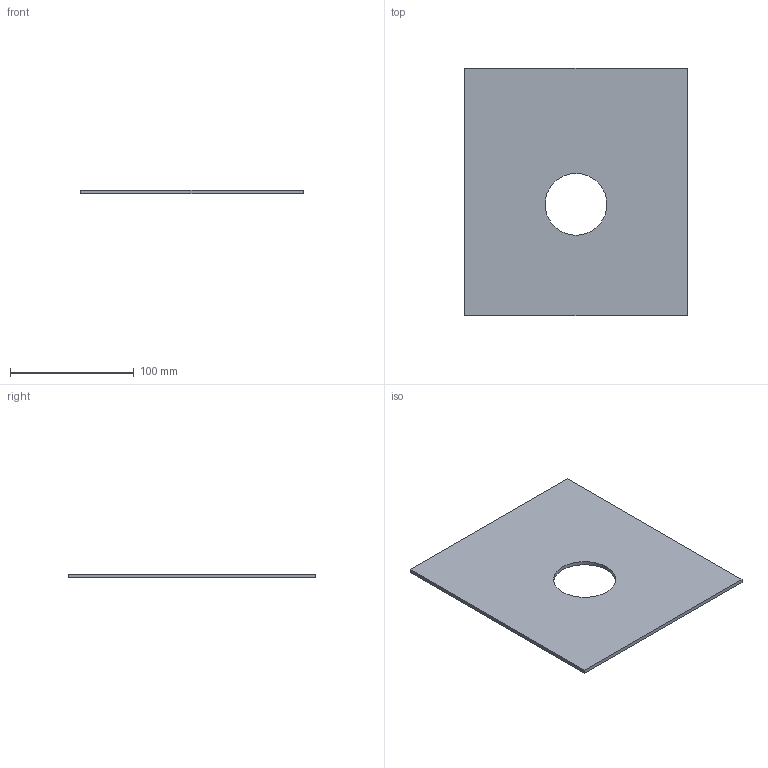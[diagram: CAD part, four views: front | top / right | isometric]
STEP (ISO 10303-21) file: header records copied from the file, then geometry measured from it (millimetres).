
FILE_DESCRIPTION(('Open CASCADE Model'),'2;1');
FILE_NAME('Open CASCADE Shape Model','2026-10-16T18:52:00',('Author'),( 'Open CASCADE'),'Open CASCADE STEP processor 7.8','Open CASCADE 7.8' ,'Unknown');
FILE_SCHEMA(('AUTOMOTIVE_DESIGN { 1 0 10303 214 1 1 1 1 }'));
Length unit declared in the file: millimetre
Products named in the file (1): Open CASCADE STEP translator 7.8 19
Bounding box: 180 x 200 x 3 mm (x, y, z)
Volume: 102109.5 mm3; surface area: 70824.2 mm2
Topology: 1 solids, 1 shells, 7 faces, 15 edges, 10 vertices
Faces by surface type: plane 6, cylinder 1
Full cylindrical faces by diameter (mm): 50 x1
Entity records: 406 total; most frequent: CARTESIAN_POINT 75, DIRECTION 61, LINE 41, VECTOR 41, ORIENTED_EDGE 30, PCURVE 30, DEFINITIONAL_REPRESENTATION 30, EDGE_CURVE 15
